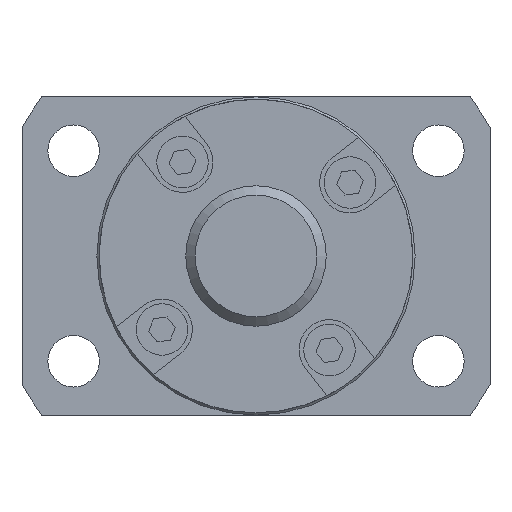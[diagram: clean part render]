
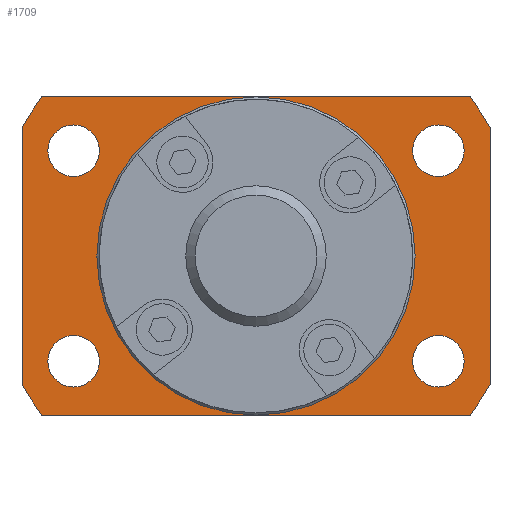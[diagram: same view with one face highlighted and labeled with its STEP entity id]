
A CAD part, left-side view. The second image highlights one B-rep face of the part: STEP entity #1709.
In plain terms, the highlighted planar face has unit normal (-1, 0, 0).
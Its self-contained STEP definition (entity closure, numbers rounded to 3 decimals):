
#99=CIRCLE('',#1878,2.75);
#100=CIRCLE('',#1879,2.75);
#101=CIRCLE('',#1880,2.75);
#102=CIRCLE('',#1881,2.75);
#103=CIRCLE('',#1882,16.75);
#104=CIRCLE('',#1883,28.5);
#105=CIRCLE('',#1884,28.5);
#106=CIRCLE('',#1885,28.5);
#107=CIRCLE('',#1886,28.5);
#255=ORIENTED_EDGE('',*,*,#664,.T.);
#256=ORIENTED_EDGE('',*,*,#665,.T.);
#257=ORIENTED_EDGE('',*,*,#666,.T.);
#258=ORIENTED_EDGE('',*,*,#667,.T.);
#259=ORIENTED_EDGE('',*,*,#668,.T.);
#260=ORIENTED_EDGE('',*,*,#669,.F.);
#261=ORIENTED_EDGE('',*,*,#670,.F.);
#262=ORIENTED_EDGE('',*,*,#671,.F.);
#263=ORIENTED_EDGE('',*,*,#672,.F.);
#264=ORIENTED_EDGE('',*,*,#673,.F.);
#265=ORIENTED_EDGE('',*,*,#674,.F.);
#266=ORIENTED_EDGE('',*,*,#675,.F.);
#267=ORIENTED_EDGE('',*,*,#676,.F.);
#664=EDGE_CURVE('',#877,#877,#99,.T.);
#665=EDGE_CURVE('',#878,#878,#100,.T.);
#666=EDGE_CURVE('',#879,#879,#101,.T.);
#667=EDGE_CURVE('',#880,#880,#102,.T.);
#668=EDGE_CURVE('',#881,#881,#103,.T.);
#669=EDGE_CURVE('',#882,#883,#104,.T.);
#670=EDGE_CURVE('',#884,#882,#1020,.T.);
#671=EDGE_CURVE('',#885,#884,#105,.T.);
#672=EDGE_CURVE('',#886,#885,#1021,.T.);
#673=EDGE_CURVE('',#887,#886,#106,.T.);
#674=EDGE_CURVE('',#888,#887,#1022,.T.);
#675=EDGE_CURVE('',#889,#888,#107,.T.);
#676=EDGE_CURVE('',#883,#889,#1023,.T.);
#877=VERTEX_POINT('',#2725);
#878=VERTEX_POINT('',#2727);
#879=VERTEX_POINT('',#2729);
#880=VERTEX_POINT('',#2731);
#881=VERTEX_POINT('',#2733);
#882=VERTEX_POINT('',#2735);
#883=VERTEX_POINT('',#2736);
#884=VERTEX_POINT('',#2738);
#885=VERTEX_POINT('',#2740);
#886=VERTEX_POINT('',#2742);
#887=VERTEX_POINT('',#2744);
#888=VERTEX_POINT('',#2746);
#889=VERTEX_POINT('',#2748);
#1020=LINE('',#2737,#1154);
#1021=LINE('',#2741,#1155);
#1022=LINE('',#2745,#1156);
#1023=LINE('',#2749,#1157);
#1154=VECTOR('',#2187,1000.);
#1155=VECTOR('',#2190,1000.);
#1156=VECTOR('',#2193,1000.);
#1157=VECTOR('',#2196,1000.);
#1299=EDGE_LOOP('',(#255));
#1300=EDGE_LOOP('',(#256));
#1301=EDGE_LOOP('',(#257));
#1302=EDGE_LOOP('',(#258));
#1303=EDGE_LOOP('',(#259));
#1304=EDGE_LOOP('',(#260,#261,#262,#263,#264,#265,#266,#267));
#1477=FACE_BOUND('',#1299,.T.);
#1478=FACE_BOUND('',#1300,.T.);
#1479=FACE_BOUND('',#1301,.T.);
#1480=FACE_BOUND('',#1302,.T.);
#1481=FACE_BOUND('',#1303,.T.);
#1482=FACE_BOUND('',#1304,.T.);
#1625=PLANE('',#1877);
#1709=ADVANCED_FACE('',(#1477,#1478,#1479,#1480,#1481,#1482),#1625,.F.);
#1877=AXIS2_PLACEMENT_3D('',#2723,#2173,#2174);
#1878=AXIS2_PLACEMENT_3D('',#2724,#2175,#2176);
#1879=AXIS2_PLACEMENT_3D('',#2726,#2177,#2178);
#1880=AXIS2_PLACEMENT_3D('',#2728,#2179,#2180);
#1881=AXIS2_PLACEMENT_3D('',#2730,#2181,#2182);
#1882=AXIS2_PLACEMENT_3D('',#2732,#2183,#2184);
#1883=AXIS2_PLACEMENT_3D('',#2734,#2185,#2186);
#1884=AXIS2_PLACEMENT_3D('',#2739,#2188,#2189);
#1885=AXIS2_PLACEMENT_3D('',#2743,#2191,#2192);
#1886=AXIS2_PLACEMENT_3D('',#2747,#2194,#2195);
#2173=DIRECTION('',(1.,0.,0.));
#2174=DIRECTION('',(0.,0.,-1.));
#2175=DIRECTION('',(1.,0.,0.));
#2176=DIRECTION('',(0.,0.,-1.));
#2177=DIRECTION('',(1.,0.,0.));
#2178=DIRECTION('',(0.,0.,-1.));
#2179=DIRECTION('',(1.,0.,0.));
#2180=DIRECTION('',(0.,0.,-1.));
#2181=DIRECTION('',(1.,0.,0.));
#2182=DIRECTION('',(0.,0.,-1.));
#2183=DIRECTION('',(1.,0.,0.));
#2184=DIRECTION('',(0.,0.,-1.));
#2185=DIRECTION('',(1.,0.,0.));
#2186=DIRECTION('',(0.,0.,-1.));
#2187=DIRECTION('',(0.,-1.,0.));
#2188=DIRECTION('',(1.,0.,0.));
#2189=DIRECTION('',(0.,0.,-1.));
#2190=DIRECTION('',(0.,0.,1.));
#2191=DIRECTION('',(1.,0.,0.));
#2192=DIRECTION('',(0.,0.,-1.));
#2193=DIRECTION('',(0.,1.,0.));
#2194=DIRECTION('',(1.,0.,0.));
#2195=DIRECTION('',(0.,0.,-1.));
#2196=DIRECTION('',(0.,0.,-1.));
#2723=CARTESIAN_POINT('',(16.,16.75,0.));
#2724=CARTESIAN_POINT('',(16.,19.486,-11.25));
#2725=CARTESIAN_POINT('',(16.,19.486,-14.));
#2726=CARTESIAN_POINT('',(16.,-19.486,11.25));
#2727=CARTESIAN_POINT('',(16.,-19.486,8.5));
#2728=CARTESIAN_POINT('',(16.,-19.486,-11.25));
#2729=CARTESIAN_POINT('',(16.,-19.486,-14.));
#2730=CARTESIAN_POINT('',(16.,19.486,11.25));
#2731=CARTESIAN_POINT('',(16.,19.486,8.5));
#2732=CARTESIAN_POINT('',(16.,0.,0.));
#2733=CARTESIAN_POINT('',(16.,0.,-16.75));
#2734=CARTESIAN_POINT('',(16.,0.,0.));
#2735=CARTESIAN_POINT('',(16.,-22.875,17.));
#2736=CARTESIAN_POINT('',(16.,-25.,13.684));
#2737=CARTESIAN_POINT('',(16.,22.875,17.));
#2738=CARTESIAN_POINT('',(16.,22.875,17.));
#2739=CARTESIAN_POINT('',(16.,0.,0.));
#2740=CARTESIAN_POINT('',(16.,25.,13.684));
#2741=CARTESIAN_POINT('',(16.,25.,-13.684));
#2742=CARTESIAN_POINT('',(16.,25.,-13.684));
#2743=CARTESIAN_POINT('',(16.,0.,0.));
#2744=CARTESIAN_POINT('',(16.,22.875,-17.));
#2745=CARTESIAN_POINT('',(16.,-22.875,-17.));
#2746=CARTESIAN_POINT('',(16.,-22.875,-17.));
#2747=CARTESIAN_POINT('',(16.,0.,0.));
#2748=CARTESIAN_POINT('',(16.,-25.,-13.684));
#2749=CARTESIAN_POINT('',(16.,-25.,13.684));
